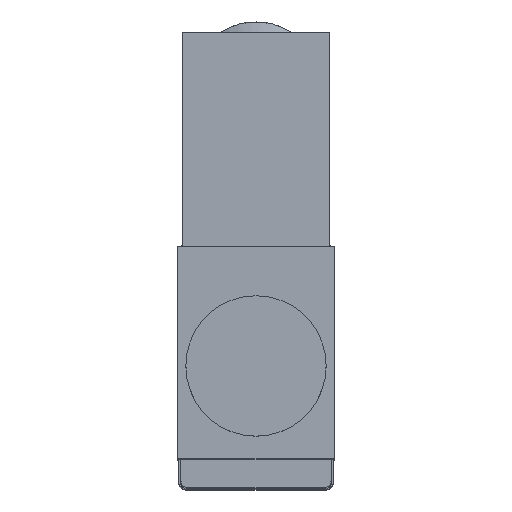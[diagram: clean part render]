
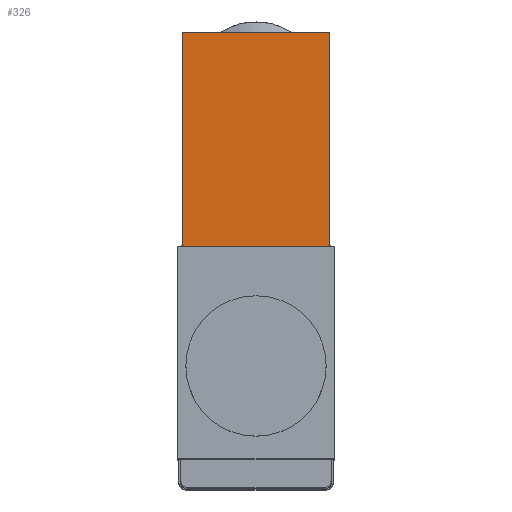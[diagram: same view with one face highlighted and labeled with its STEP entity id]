
A CAD part, top view. The second image highlights one B-rep face of the part: STEP entity #326.
In plain terms, the highlighted planar face has unit normal (0, 0, 1).
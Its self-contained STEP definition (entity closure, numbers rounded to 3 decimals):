
#326 = ADVANCED_FACE( '', ( #739 ), #740, .F. );
#739 = FACE_OUTER_BOUND( '', #1234, .T. );
#740 = PLANE( '', #1235 );
#1234 = EDGE_LOOP( '', ( #2076, #2077, #2078, #2079 ) );
#1235 = AXIS2_PLACEMENT_3D( '', #2080, #2081, #2082 );
#2076 = ORIENTED_EDGE( '', *, *, #2879, .T. );
#2077 = ORIENTED_EDGE( '', *, *, #2816, .T. );
#2078 = ORIENTED_EDGE( '', *, *, #2934, .F. );
#2079 = ORIENTED_EDGE( '', *, *, #2935, .F. );
#2080 = CARTESIAN_POINT( '', ( -10.5, 47.5, 95.7 ) );
#2081 = DIRECTION( '', ( 0., 0., -1. ) );
#2082 = DIRECTION( '', ( -1., 0., 0. ) );
#2816 = EDGE_CURVE( '', #3395, #3393, #3396, .T. );
#2879 = EDGE_CURVE( '', #3487, #3395, #3488, .T. );
#2934 = EDGE_CURVE( '', #3559, #3393, #3560, .T. );
#2935 = EDGE_CURVE( '', #3487, #3559, #3561, .T. );
#3393 = VERTEX_POINT( '', #4305 );
#3395 = VERTEX_POINT( '', #4308 );
#3396 = LINE( '', #4309, #4310 );
#3487 = VERTEX_POINT( '', #4438 );
#3488 = LINE( '', #4439, #4440 );
#3559 = VERTEX_POINT( '', #4547 );
#3560 = LINE( '', #4548, #4549 );
#3561 = LINE( '', #4550, #4551 );
#4305 = CARTESIAN_POINT( '', ( 10.5, 17., 95.7 ) );
#4308 = CARTESIAN_POINT( '', ( -10.5, 17., 95.7 ) );
#4309 = CARTESIAN_POINT( '', ( 11.15, 17., 95.7 ) );
#4310 = VECTOR( '', #4967, 1000. );
#4438 = CARTESIAN_POINT( '', ( -10.5, 47.5, 95.7 ) );
#4439 = CARTESIAN_POINT( '', ( -10.5, 47.5, 95.7 ) );
#4440 = VECTOR( '', #5046, 1000. );
#4547 = CARTESIAN_POINT( '', ( 10.5, 47.5, 95.7 ) );
#4548 = CARTESIAN_POINT( '', ( 10.5, 47.5, 95.7 ) );
#4549 = VECTOR( '', #5106, 1000. );
#4550 = CARTESIAN_POINT( '', ( -10.5, 47.5, 95.7 ) );
#4551 = VECTOR( '', #5107, 1000. );
#4967 = DIRECTION( '', ( 1., 0., 0. ) );
#5046 = DIRECTION( '', ( 0., -1., 0. ) );
#5106 = DIRECTION( '', ( 0., -1., 0. ) );
#5107 = DIRECTION( '', ( 1., 0., 0. ) );
